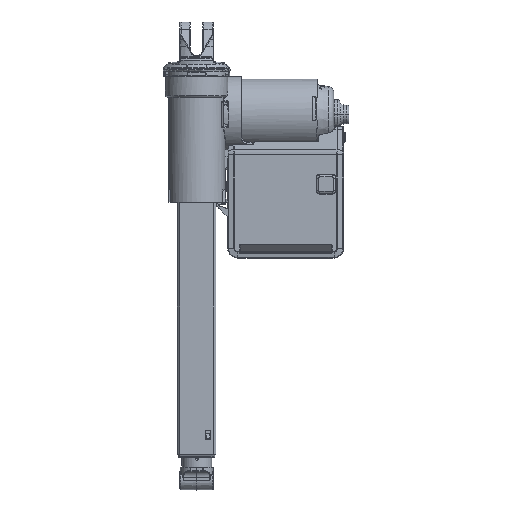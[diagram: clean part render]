
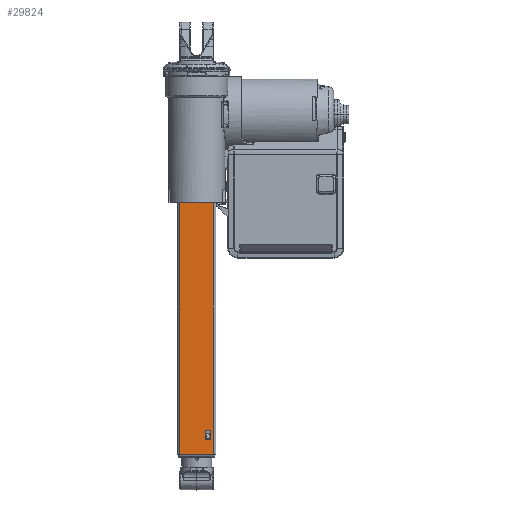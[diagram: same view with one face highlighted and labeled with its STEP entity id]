
A CAD part, left-side view. The second image highlights one B-rep face of the part: STEP entity #29824.
In plain terms, the highlighted planar face has unit normal (-1, 0, 0).
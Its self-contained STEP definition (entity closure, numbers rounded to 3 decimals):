
#28303=DIRECTION('',(0.,1.,0.));
#28304=VECTOR('',#28303,4.2);
#28305=CARTESIAN_POINT('',(-16.,-11.5,22.1));
#28306=LINE('',#28305,#28304);
#28307=DIRECTION('',(0.,0.,-1.));
#28308=VECTOR('',#28307,6.9);
#28309=CARTESIAN_POINT('',(-16.,-7.05,21.85));
#28310=LINE('',#28309,#28308);
#28311=DIRECTION('',(0.,-1.,0.));
#28312=VECTOR('',#28311,4.2);
#28313=CARTESIAN_POINT('',(-16.,-7.3,14.7));
#28314=LINE('',#28313,#28312);
#28315=DIRECTION('',(0.,0.,1.));
#28316=VECTOR('',#28315,6.9);
#28317=CARTESIAN_POINT('',(-16.,-11.75,14.95));
#28318=LINE('',#28317,#28316);
#28319=DIRECTION('',(0.,-1.,0.));
#28320=VECTOR('',#28319,28.);
#28321=CARTESIAN_POINT('',(-16.,14.,2.545));
#28322=LINE('',#28321,#28320);
#28436=CARTESIAN_POINT('',(-16.,-11.5,21.85));
#28437=DIRECTION('',(1.,0.,0.));
#28438=DIRECTION('',(0.,0.,1.));
#28439=AXIS2_PLACEMENT_3D('',#28436,#28437,#28438);
#28459=CARTESIAN_POINT('',(-16.,-11.5,14.95));
#28460=DIRECTION('',(1.,0.,0.));
#28461=DIRECTION('',(0.,-1.,0.));
#28462=AXIS2_PLACEMENT_3D('',#28459,#28460,#28461);
#28482=CARTESIAN_POINT('',(-16.,-7.3,14.95));
#28483=DIRECTION('',(1.,0.,0.));
#28484=DIRECTION('',(0.,0.,-1.));
#28485=AXIS2_PLACEMENT_3D('',#28482,#28483,#28484);
#28505=CARTESIAN_POINT('',(-16.,-7.3,21.85));
#28506=DIRECTION('',(1.,0.,0.));
#28507=DIRECTION('',(0.,1.,0.));
#28508=AXIS2_PLACEMENT_3D('',#28505,#28506,#28507);
#28514=DIRECTION('',(0.,0.,-1.));
#28515=VECTOR('',#28514,282.955);
#28516=CARTESIAN_POINT('',(-16.,14.,285.5));
#28517=LINE('',#28516,#28515);
#29163=DIRECTION('',(0.,0.,1.));
#29164=VECTOR('',#29163,282.955);
#29165=CARTESIAN_POINT('',(-16.,-14.,2.545));
#29166=LINE('',#29165,#29164);
#29171=DIRECTION('',(0.,-1.,0.));
#29172=VECTOR('',#29171,28.);
#29173=CARTESIAN_POINT('',(-16.,14.,285.5));
#29174=LINE('',#29173,#29172);
#29521=CARTESIAN_POINT('',(-16.,-11.5,22.1));
#29522=CARTESIAN_POINT('',(-16.,-7.3,22.1));
#29523=VERTEX_POINT('',#29521);
#29524=VERTEX_POINT('',#29522);
#29525=CARTESIAN_POINT('',(-16.,-7.05,21.85));
#29526=CARTESIAN_POINT('',(-16.,-7.05,14.95));
#29527=VERTEX_POINT('',#29525);
#29528=VERTEX_POINT('',#29526);
#29529=CARTESIAN_POINT('',(-16.,-7.3,14.7));
#29530=CARTESIAN_POINT('',(-16.,-11.5,14.7));
#29531=VERTEX_POINT('',#29529);
#29532=VERTEX_POINT('',#29530);
#29533=CARTESIAN_POINT('',(-16.,-11.75,14.95));
#29534=CARTESIAN_POINT('',(-16.,-11.75,21.85));
#29535=VERTEX_POINT('',#29533);
#29536=VERTEX_POINT('',#29534);
#29569=CARTESIAN_POINT('',(-16.,-14.,2.545));
#29571=VERTEX_POINT('',#29569);
#29577=CARTESIAN_POINT('',(-16.,14.,2.545));
#29578=VERTEX_POINT('',#29577);
#29775=CARTESIAN_POINT('',(-16.,14.,285.5));
#29776=CARTESIAN_POINT('',(-16.,-14.,285.5));
#29777=VERTEX_POINT('',#29775);
#29778=VERTEX_POINT('',#29776);
#29791=CARTESIAN_POINT('',(-16.,14.,270.));
#29792=DIRECTION('',(-1.,0.,0.));
#29793=DIRECTION('',(0.,-1.,0.));
#29794=AXIS2_PLACEMENT_3D('',#29791,#29792,#29793);
#29795=PLANE('',#29794);
#29797=ORIENTED_EDGE('',*,*,#29796,.F.);
#29799=ORIENTED_EDGE('',*,*,#29798,.T.);
#29801=ORIENTED_EDGE('',*,*,#29800,.F.);
#29803=ORIENTED_EDGE('',*,*,#29802,.F.);
#29804=EDGE_LOOP('',(#29797,#29799,#29801,#29803));
#29805=FACE_OUTER_BOUND('',#29804,.F.);
#29807=ORIENTED_EDGE('',*,*,#29806,.T.);
#29809=ORIENTED_EDGE('',*,*,#29808,.F.);
#29811=ORIENTED_EDGE('',*,*,#29810,.T.);
#29813=ORIENTED_EDGE('',*,*,#29812,.F.);
#29815=ORIENTED_EDGE('',*,*,#29814,.T.);
#29817=ORIENTED_EDGE('',*,*,#29816,.F.);
#29819=ORIENTED_EDGE('',*,*,#29818,.T.);
#29821=ORIENTED_EDGE('',*,*,#29820,.F.);
#29822=EDGE_LOOP('',(#29807,#29809,#29811,#29813,#29815,#29817,#29819,#29821));
#29823=FACE_BOUND('',#29822,.F.);
#28440=CIRCLE('',#28439,0.25);
#28463=CIRCLE('',#28462,0.25);
#28486=CIRCLE('',#28485,0.25);
#28509=CIRCLE('',#28508,0.25);
#29796=EDGE_CURVE('',#29777,#29578,#28517,.T.);
#29798=EDGE_CURVE('',#29777,#29778,#29174,.T.);
#29800=EDGE_CURVE('',#29571,#29778,#29166,.T.);
#29802=EDGE_CURVE('',#29578,#29571,#28322,.T.);
#29806=EDGE_CURVE('',#29523,#29524,#28306,.T.);
#29808=EDGE_CURVE('',#29527,#29524,#28509,.T.);
#29810=EDGE_CURVE('',#29527,#29528,#28310,.T.);
#29812=EDGE_CURVE('',#29531,#29528,#28486,.T.);
#29814=EDGE_CURVE('',#29531,#29532,#28314,.T.);
#29816=EDGE_CURVE('',#29535,#29532,#28463,.T.);
#29818=EDGE_CURVE('',#29535,#29536,#28318,.T.);
#29820=EDGE_CURVE('',#29523,#29536,#28440,.T.);
#29824=ADVANCED_FACE('',(#29805,#29823),#29795,.T.);
